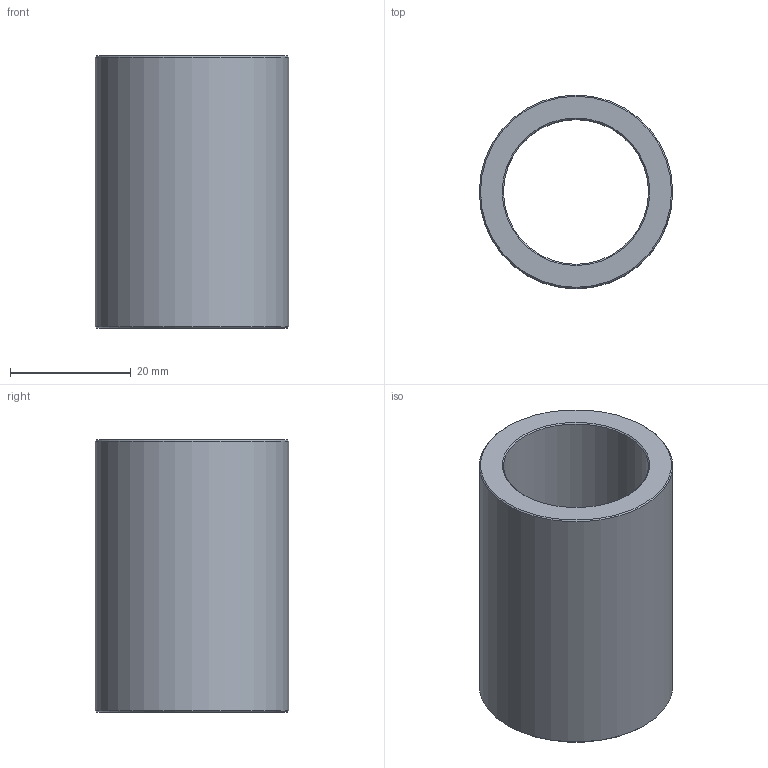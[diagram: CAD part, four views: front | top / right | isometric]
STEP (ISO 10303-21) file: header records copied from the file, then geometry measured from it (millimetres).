
FILE_DESCRIPTION(('STEP AP203'),'1');
FILE_NAME('C:/Users/Rodrigo/Desktop/GA4.024.045-1.step','2016-11-07T14:27:15',(' '),(' '),'Spatial InterOp 3D',' ',' ');
FILE_SCHEMA(('CONFIG_CONTROL_DESIGN'));
Length unit declared in the file: millimetre
Products named in the file (1): 1
Bounding box: 32 x 32 x 45 mm (x, y, z)
Volume: 15826.6 mm3; surface area: 8579.3 mm2
Topology: 1 solids, 1 shells, 8 faces, 14 edges, 8 vertices
Faces by surface type: cone 4, cylinder 2, plane 2
Full cylindrical faces by diameter (mm): 24 x1, 32 x1
Entity records: 212 total; most frequent: DIRECTION 34, CARTESIAN_POINT 25, AXIS2_PLACEMENT_3D 17, EDGE_LOOP 16, ORIENTED_EDGE 16, FACE_OUTER_BOUND 10, ADVANCED_FACE 8, EDGE_CURVE 8
